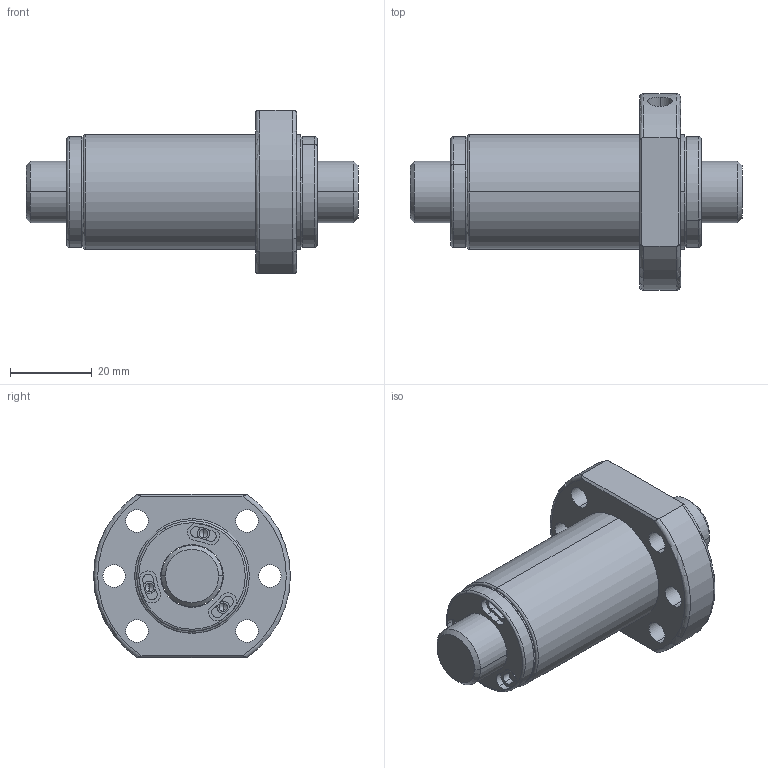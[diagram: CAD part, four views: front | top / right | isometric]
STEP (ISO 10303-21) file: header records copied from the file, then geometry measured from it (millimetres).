
FILE_DESCRIPTION (( 'STEP AP203' ), '1' );
FILE_NAME ('SFHR01616B1D-C.STEP', '2020-06-17T07:55:25', ( '' ), ( '' ), 'SwSTEP 2.0', 'SolidWorks 2013', '' );
FILE_SCHEMA (( 'CONFIG_CONTROL_DESIGN' ));
Length unit declared in the file: millimetre
Products named in the file (1): SFHR01616B1D-C
Bounding box: 81 x 48 x 40 mm (x, y, z)
Volume: 47080.6 mm3; surface area: 17604.3 mm2
Topology: 2 solids, 2 shells, 209 faces, 500 edges, 312 vertices
Faces by surface type: cylinder 126, plane 57, cone 16, torus 10
Entity records: 6413 total; most frequent: CARTESIAN_POINT 1258, DIRECTION 1204, ORIENTED_EDGE 976, AXIS2_PLACEMENT_3D 526, EDGE_CURVE 488, CIRCLE 316, VERTEX_POINT 312, EDGE_LOOP 254
